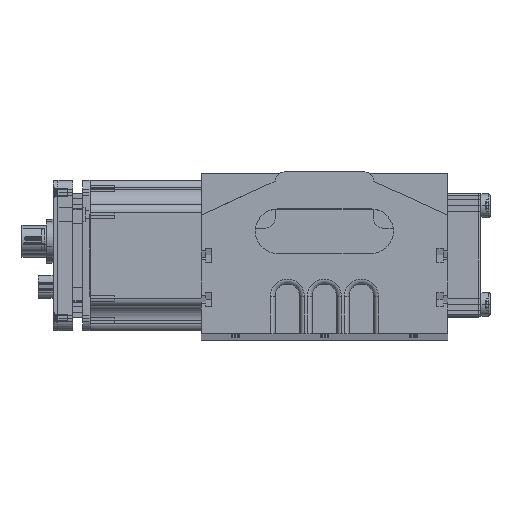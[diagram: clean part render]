
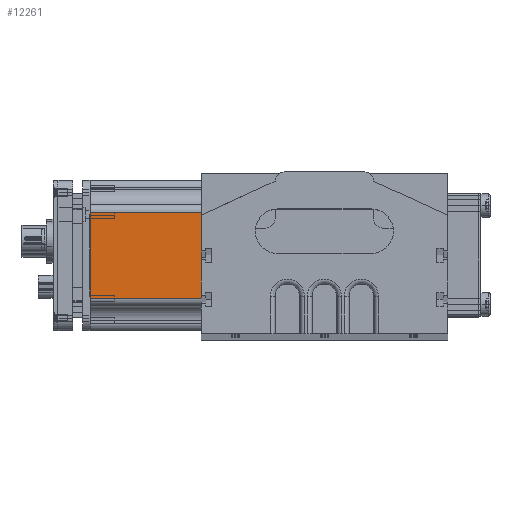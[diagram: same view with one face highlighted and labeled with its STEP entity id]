
A CAD part, top view. The second image highlights one B-rep face of the part: STEP entity #12261.
In plain terms, the highlighted planar face has unit normal (0, 0, 1).
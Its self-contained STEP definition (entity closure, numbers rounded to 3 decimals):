
#5221 = DIRECTION ( 'NONE',  ( 1., 0., 0. ) ) ;
#5227 = VECTOR ( 'NONE', #5221, 1000. ) ;
#5228 = CARTESIAN_POINT ( 'NONE',  ( -24.5, 0., 30.5 ) ) ;
#5229 = LINE ( 'NONE', #5228, #5227 ) ;
#5245 = CARTESIAN_POINT ( 'NONE',  ( 17.5, 94., 30.5 ) ) ;
#5266 = VECTOR ( 'NONE', #5282, 1000. ) ;
#5273 = LINE ( 'NONE', #5283, #5266 ) ;
#5282 = DIRECTION ( 'NONE',  ( 0., 1., 0. ) ) ;
#5283 = CARTESIAN_POINT ( 'NONE',  ( -17.5, 7., 30.5 ) ) ;
#5522 = DIRECTION ( 'NONE',  ( 1., 0., 0. ) ) ;
#5523 = VECTOR ( 'NONE', #5522, 1000. ) ;
#5524 = CARTESIAN_POINT ( 'NONE',  ( -24.5, 7., 30.5 ) ) ;
#5526 = LINE ( 'NONE', #5524, #5523 ) ;
#5560 = CARTESIAN_POINT ( 'NONE',  ( -17.5, 94., 30.5 ) ) ;
#5568 = DIRECTION ( 'NONE',  ( 0., -1., 0. ) ) ;
#5569 = VECTOR ( 'NONE', #5568, 1000. ) ;
#5570 = CARTESIAN_POINT ( 'NONE',  ( 24.5, 7., 30.5 ) ) ;
#5574 = LINE ( 'NONE', #5570, #5569 ) ;
#5584 = CARTESIAN_POINT ( 'NONE',  ( 17.5, 7., 30.5 ) ) ;
#5593 = CARTESIAN_POINT ( 'NONE',  ( 24.5, 7., 30.5 ) ) ;
#5607 = CARTESIAN_POINT ( 'NONE',  ( 24.5, 0., 30.5 ) ) ;
#5627 = PLANE ( 'NONE',  #5653 ) ;
#5631 = DIRECTION ( 'NONE',  ( -1., 0., 0. ) ) ;
#5632 = DIRECTION ( 'NONE',  ( 0., 0., -1. ) ) ;
#5636 = CARTESIAN_POINT ( 'NONE',  ( -24.5, 7., 30.5 ) ) ;
#5652 = FACE_OUTER_BOUND ( 'NONE', #11986, .T. ) ;
#5653 = AXIS2_PLACEMENT_3D ( 'NONE', #5636, #5632, #5631 ) ;
#5724 = VECTOR ( 'NONE', #5735, 1000. ) ;
#5735 = DIRECTION ( 'NONE',  ( 1., 0., 0. ) ) ;
#5736 = CARTESIAN_POINT ( 'NONE',  ( 26.5, 94., 30.5 ) ) ;
#5737 = LINE ( 'NONE', #5736, #5724 ) ;
#5773 = DIRECTION ( 'NONE',  ( 0., -1., 0. ) ) ;
#5774 = VECTOR ( 'NONE', #5773, 1000. ) ;
#5778 = LINE ( 'NONE', #5785, #5774 ) ;
#5785 = CARTESIAN_POINT ( 'NONE',  ( 17.5, 95.35, 30.5 ) ) ;
#11940 = ORIENTED_EDGE ( 'NONE', *, *, #12320, .F. ) ;
#11986 = EDGE_LOOP ( 'NONE', ( #12089, #12269, #12232, #12257, #12250, #12307, #11940, #12215 ) ) ;
#12036 = VERTEX_POINT ( 'NONE', #5245 ) ;
#12041 = EDGE_CURVE ( 'NONE', #46384, #12230, #5229, .T. ) ;
#12058 = EDGE_CURVE ( 'NONE', #46880, #12186, #5273, .T. ) ;
#12089 = ORIENTED_EDGE ( 'NONE', *, *, #12058, .F. ) ;
#12167 = EDGE_CURVE ( 'NONE', #12222, #12248, #5526, .T. ) ;
#12186 = VERTEX_POINT ( 'NONE', #5560 ) ;
#12213 = EDGE_CURVE ( 'NONE', #12248, #12230, #5574, .T. ) ;
#12215 = ORIENTED_EDGE ( 'NONE', *, *, #12305, .F. ) ;
#12222 = VERTEX_POINT ( 'NONE', #5584 ) ;
#12230 = VERTEX_POINT ( 'NONE', #5607 ) ;
#12232 = ORIENTED_EDGE ( 'NONE', *, *, #46740, .F. ) ;
#12248 = VERTEX_POINT ( 'NONE', #5593 ) ;
#12250 = ORIENTED_EDGE ( 'NONE', *, *, #12213, .F. ) ;
#12257 = ORIENTED_EDGE ( 'NONE', *, *, #12041, .T. ) ;
#12261 = ADVANCED_FACE ( 'NONE', ( #5652 ), #5627, .F. ) ;
#12269 = ORIENTED_EDGE ( 'NONE', *, *, #47192, .F. ) ;
#12305 = EDGE_CURVE ( 'NONE', #12186, #12036, #5737, .T. ) ;
#12307 = ORIENTED_EDGE ( 'NONE', *, *, #12167, .F. ) ;
#12320 = EDGE_CURVE ( 'NONE', #12036, #12222, #5778, .T. ) ;
#34956 = CARTESIAN_POINT ( 'NONE',  ( -24.5, 0., 30.5 ) ) ;
#35514 = DIRECTION ( 'NONE',  ( 0., 1., 0. ) ) ;
#35515 = VECTOR ( 'NONE', #35514, 1000. ) ;
#35522 = CARTESIAN_POINT ( 'NONE',  ( -24.5, 7., 30.5 ) ) ;
#35523 = LINE ( 'NONE', #35522, #35515 ) ;
#35689 = CARTESIAN_POINT ( 'NONE',  ( -17.5, 7., 30.5 ) ) ;
#36172 = DIRECTION ( 'NONE',  ( 1., 0., 0. ) ) ;
#36173 = VECTOR ( 'NONE', #36172, 1000. ) ;
#36174 = CARTESIAN_POINT ( 'NONE',  ( -24.5, 7., 30.5 ) ) ;
#36177 = LINE ( 'NONE', #36174, #36173 ) ;
#36221 = CARTESIAN_POINT ( 'NONE',  ( -24.5, 7., 30.5 ) ) ;
#46384 = VERTEX_POINT ( 'NONE', #34956 ) ;
#46740 = EDGE_CURVE ( 'NONE', #46384, #47211, #35523, .T. ) ;
#46880 = VERTEX_POINT ( 'NONE', #35689 ) ;
#47192 = EDGE_CURVE ( 'NONE', #47211, #46880, #36177, .T. ) ;
#47211 = VERTEX_POINT ( 'NONE', #36221 ) ;
